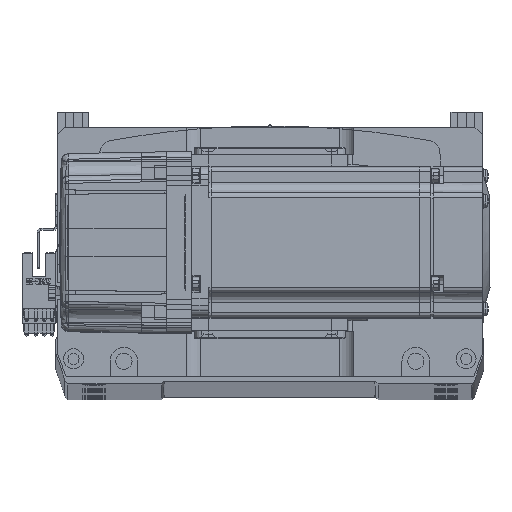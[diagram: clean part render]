
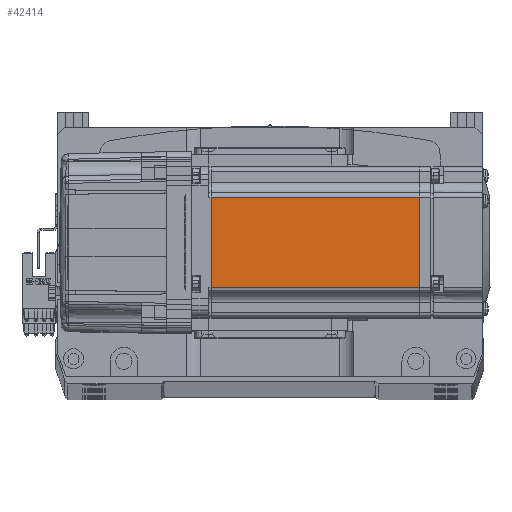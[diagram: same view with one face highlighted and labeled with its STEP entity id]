
A CAD part, top view. The second image highlights one B-rep face of the part: STEP entity #42414.
In plain terms, the highlighted planar face has unit normal (0, 0, 1) as drawn and (0, -1, 0) by its records, which use the part's own axes.
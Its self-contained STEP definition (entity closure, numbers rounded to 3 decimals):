
#85 = ORIENTED_EDGE ( 'NONE', *, *, #8076, .T. ) ;
#2670 = DIRECTION ( 'NONE',  ( 1., 0., 0. ) ) ;
#5513 = VERTEX_POINT ( 'NONE', #57622 ) ;
#5617 = EDGE_CURVE ( 'NONE', #55827, #7837, #44088, .T. ) ;
#7837 = VERTEX_POINT ( 'NONE', #20977 ) ;
#8076 = EDGE_CURVE ( 'NONE', #7837, #8658, #61477, .T. ) ;
#8658 = VERTEX_POINT ( 'NONE', #62218 ) ;
#9092 = AXIS2_PLACEMENT_3D ( 'NONE', #61458, #61199, #55005 ) ;
#15161 = LINE ( 'NONE', #42452, #16018 ) ;
#15754 = DIRECTION ( 'NONE',  ( 0., 0., 1. ) ) ;
#16018 = VECTOR ( 'NONE', #2670, 1000. ) ;
#16603 = VECTOR ( 'NONE', #29305, 1000. ) ;
#20977 = CARTESIAN_POINT ( 'NONE',  ( -90.45, -30., 18. ) ) ;
#25482 = VECTOR ( 'NONE', #15754, 1000. ) ;
#27576 = CARTESIAN_POINT ( 'NONE',  ( -90.45, -30., -25. ) ) ;
#28856 = ORIENTED_EDGE ( 'NONE', *, *, #62320, .T. ) ;
#29305 = DIRECTION ( 'NONE',  ( -1., 0., 0. ) ) ;
#41796 = ORIENTED_EDGE ( 'NONE', *, *, #70853, .T. ) ;
#42414 = ADVANCED_FACE ( 'NONE', ( #66528 ), #44577, .T. ) ;
#42452 = CARTESIAN_POINT ( 'NONE',  ( -6.5, -30., -18. ) ) ;
#44088 = LINE ( 'NONE', #68202, #16603 ) ;
#44577 = PLANE ( 'NONE',  #9092 ) ;
#47227 = VECTOR ( 'NONE', #72853, 1000. ) ;
#50880 = EDGE_LOOP ( 'NONE', ( #41796, #55058, #85, #28856 ) ) ;
#51186 = LINE ( 'NONE', #72388, #25482 ) ;
#55005 = DIRECTION ( 'NONE',  ( 0., 0., -1. ) ) ;
#55058 = ORIENTED_EDGE ( 'NONE', *, *, #5617, .T. ) ;
#55827 = VERTEX_POINT ( 'NONE', #73186 ) ;
#57622 = CARTESIAN_POINT ( 'NONE',  ( -7.75, -30., -18. ) ) ;
#61199 = DIRECTION ( 'NONE',  ( 0., -1., 0. ) ) ;
#61458 = CARTESIAN_POINT ( 'NONE',  ( -6.5, -30., -25. ) ) ;
#61477 = LINE ( 'NONE', #27576, #47227 ) ;
#62218 = CARTESIAN_POINT ( 'NONE',  ( -90.45, -30., -18. ) ) ;
#62320 = EDGE_CURVE ( 'NONE', #8658, #5513, #15161, .T. ) ;
#66528 = FACE_OUTER_BOUND ( 'NONE', #50880, .T. ) ;
#68202 = CARTESIAN_POINT ( 'NONE',  ( -6.5, -30., 18. ) ) ;
#70853 = EDGE_CURVE ( 'NONE', #5513, #55827, #51186, .T. ) ;
#72388 = CARTESIAN_POINT ( 'NONE',  ( -7.75, -30., -25. ) ) ;
#72853 = DIRECTION ( 'NONE',  ( 0., 0., -1. ) ) ;
#73186 = CARTESIAN_POINT ( 'NONE',  ( -7.75, -30., 18. ) ) ;
